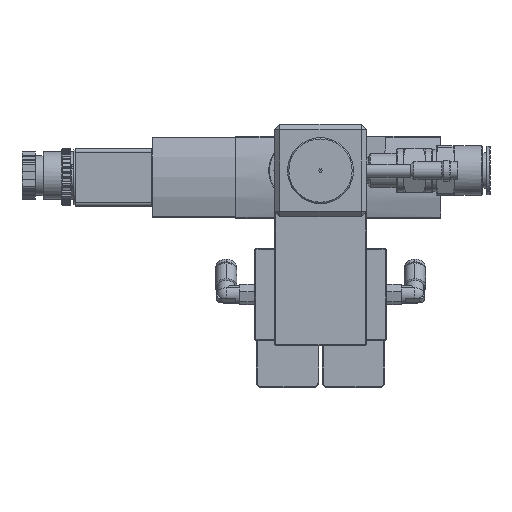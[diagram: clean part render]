
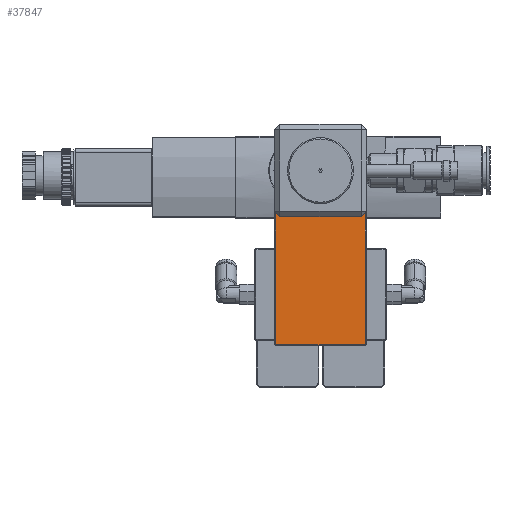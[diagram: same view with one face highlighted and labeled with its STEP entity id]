
A CAD part, front view. The second image highlights one B-rep face of the part: STEP entity #37847.
In plain terms, the highlighted planar face has unit normal (0, -1, 0).
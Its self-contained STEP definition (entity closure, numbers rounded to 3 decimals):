
#921 = ORIENTED_EDGE ( 'NONE', *, *, #68921, .T. ) ;
#4807 = EDGE_CURVE ( 'NONE', #14433, #92499, #55010, .T. ) ;
#5407 = EDGE_CURVE ( 'NONE', #69524, #83967, #29438, .T. ) ;
#6066 = LINE ( 'NONE', #90469, #98900 ) ;
#9969 = LINE ( 'NONE', #73646, #17514 ) ;
#11079 = DIRECTION ( 'NONE',  ( 1., 0., 0. ) ) ;
#14433 = VERTEX_POINT ( 'NONE', #84839 ) ;
#17514 = VECTOR ( 'NONE', #42537, 1000. ) ;
#18811 = CARTESIAN_POINT ( 'NONE',  ( 15.293, 20., -17. ) ) ;
#21600 = DIRECTION ( 'NONE',  ( 0., 1., 0. ) ) ;
#23959 = EDGE_LOOP ( 'NONE', ( #47189, #47443, #921, #24450, #47982, #65047 ) ) ;
#24251 = CARTESIAN_POINT ( 'NONE',  ( -17., 20., -15.293 ) ) ;
#24450 = ORIENTED_EDGE ( 'NONE', *, *, #89506, .T. ) ;
#25927 = LINE ( 'NONE', #57474, #100052 ) ;
#27890 = DIRECTION ( 'NONE',  ( 0., 0., 1. ) ) ;
#28156 = VECTOR ( 'NONE', #62799, 1000. ) ;
#28334 = VECTOR ( 'NONE', #11079, 1000. ) ;
#28403 = CARTESIAN_POINT ( 'NONE',  ( 17., 20., -24.5 ) ) ;
#28461 = CARTESIAN_POINT ( 'NONE',  ( 17., 20., -15.293 ) ) ;
#29357 = DIRECTION ( 'NONE',  ( -1., 0., 0. ) ) ;
#29438 = LINE ( 'NONE', #28403, #72893 ) ;
#29541 = CARTESIAN_POINT ( 'NONE',  ( 0., 20., -66. ) ) ;
#35369 = LINE ( 'NONE', #29541, #28334 ) ;
#37847 = ADVANCED_FACE ( 'NONE', ( #99799 ), #53649, .F. ) ;
#42537 = DIRECTION ( 'NONE',  ( -0.707, 0., -0.707 ) ) ;
#44240 = EDGE_CURVE ( 'NONE', #94728, #14433, #6066, .T. ) ;
#47189 = ORIENTED_EDGE ( 'NONE', *, *, #44240, .T. ) ;
#47443 = ORIENTED_EDGE ( 'NONE', *, *, #4807, .T. ) ;
#47745 = CARTESIAN_POINT ( 'NONE',  ( -16.146, 20., -16.146 ) ) ;
#47982 = ORIENTED_EDGE ( 'NONE', *, *, #5407, .T. ) ;
#49786 = CARTESIAN_POINT ( 'NONE',  ( 17., 20., -66. ) ) ;
#53649 = PLANE ( 'NONE',  #72272 ) ;
#55010 = LINE ( 'NONE', #47745, #28156 ) ;
#57474 = CARTESIAN_POINT ( 'NONE',  ( -17., 20., -24.5 ) ) ;
#62799 = DIRECTION ( 'NONE',  ( -0.707, 0., 0.707 ) ) ;
#65047 = ORIENTED_EDGE ( 'NONE', *, *, #69550, .T. ) ;
#68921 = EDGE_CURVE ( 'NONE', #92499, #101965, #25927, .T. ) ;
#69233 = DIRECTION ( 'NONE',  ( 0., 0., 1. ) ) ;
#69524 = VERTEX_POINT ( 'NONE', #49786 ) ;
#69550 = EDGE_CURVE ( 'NONE', #83967, #94728, #9969, .T. ) ;
#72272 = AXIS2_PLACEMENT_3D ( 'NONE', #76476, #21600, #69233 ) ;
#72893 = VECTOR ( 'NONE', #27890, 1000. ) ;
#73646 = CARTESIAN_POINT ( 'NONE',  ( 16.146, 20., -16.146 ) ) ;
#76476 = CARTESIAN_POINT ( 'NONE',  ( 0., 20., -24.5 ) ) ;
#83967 = VERTEX_POINT ( 'NONE', #28461 ) ;
#84839 = CARTESIAN_POINT ( 'NONE',  ( -15.293, 20., -17. ) ) ;
#89506 = EDGE_CURVE ( 'NONE', #101965, #69524, #35369, .T. ) ;
#90469 = CARTESIAN_POINT ( 'NONE',  ( -15.5, 20., -17. ) ) ;
#92499 = VERTEX_POINT ( 'NONE', #24251 ) ;
#94728 = VERTEX_POINT ( 'NONE', #18811 ) ;
#97163 = CARTESIAN_POINT ( 'NONE',  ( -17., 20., -66. ) ) ;
#97371 = DIRECTION ( 'NONE',  ( 0., 0., -1. ) ) ;
#98900 = VECTOR ( 'NONE', #29357, 1000. ) ;
#99799 = FACE_OUTER_BOUND ( 'NONE', #23959, .T. ) ;
#100052 = VECTOR ( 'NONE', #97371, 1000. ) ;
#101965 = VERTEX_POINT ( 'NONE', #97163 ) ;
